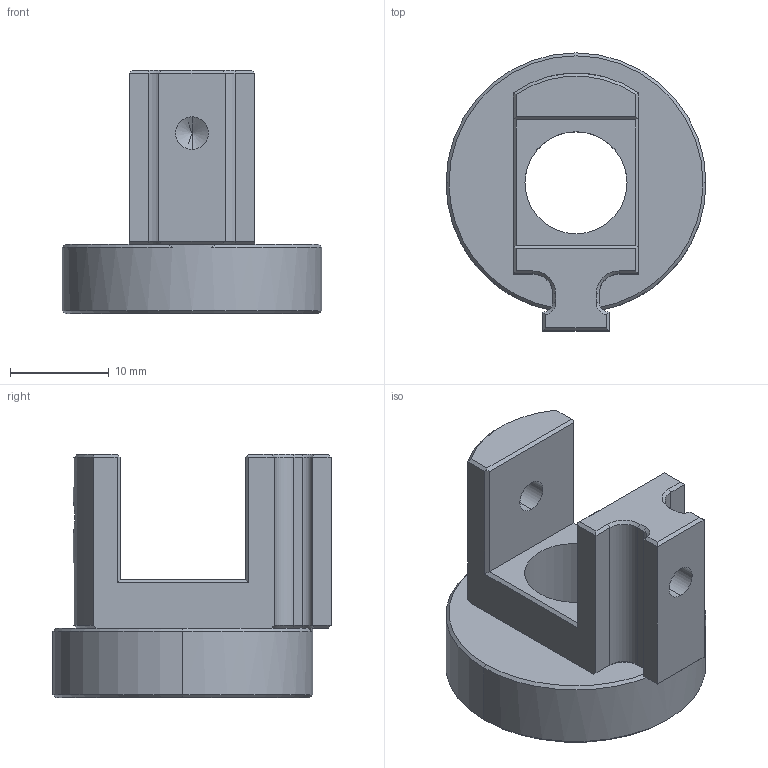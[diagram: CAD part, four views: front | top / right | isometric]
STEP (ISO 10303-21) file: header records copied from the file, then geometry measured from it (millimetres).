
FILE_DESCRIPTION (( 'STEP AP214' ), '1' );
FILE_NAME ('濩噩巠饜ん-1渡.STEP', '2025-09-10T06:53:45', ( '' ), ( '' ), 'SwSTEP 2.0', 'SolidWorks 2024', '' );
FILE_SCHEMA (( 'AUTOMOTIVE_DESIGN' ));
Length unit declared in the file: millimetre
Products named in the file (1): 棱镜适配器-1寸
Bounding box: 26.29 x 28.14 x 24.6 mm (x, y, z)
Volume: 5623.3 mm3; surface area: 3291.7 mm2
Topology: 1 solids, 1 shells, 73 faces, 179 edges, 107 vertices
Faces by surface type: plane 43, cone 17, cylinder 13
Entity records: 2183 total; most frequent: CARTESIAN_POINT 448, DIRECTION 354, ORIENTED_EDGE 354, EDGE_CURVE 177, VECTOR 120, LINE 120, AXIS2_PLACEMENT_3D 117, VERTEX_POINT 107
